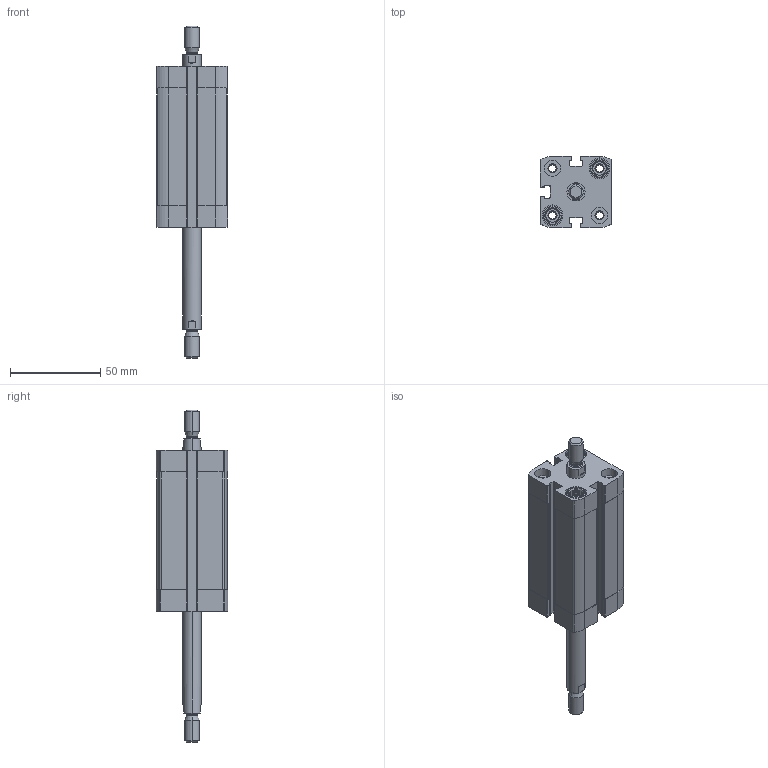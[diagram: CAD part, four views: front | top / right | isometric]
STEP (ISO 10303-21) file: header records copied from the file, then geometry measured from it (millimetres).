
FILE_DESCRIPTION (( 'STEP AP203' ), '1' );
FILE_NAME ('CCN25-50-P.STEP', '2020-06-22T18:43:48', ( '' ), ( '' ), 'SwSTEP 2.0', 'SolidWorks 2019', '' );
FILE_SCHEMA (( 'CONFIG_CONTROL_DESIGN' ));
Length unit declared in the file: millimetre
Products named in the file (1): CCN25-50-P
Bounding box: 39.5 x 39.5 x 183.5 mm (x, y, z)
Volume: 102833 mm3; surface area: 40303.9 mm2
Topology: 2 solids, 2 shells, 428 faces, 1120 edges, 728 vertices
Faces by surface type: plane 236, cylinder 140, cone 44, torus 8
Entity records: 13423 total; most frequent: CARTESIAN_POINT 2577, DIRECTION 2314, ORIENTED_EDGE 2240, EDGE_CURVE 1120, AXIS2_PLACEMENT_3D 865, VERTEX_POINT 728, VECTOR 584, LINE 584
